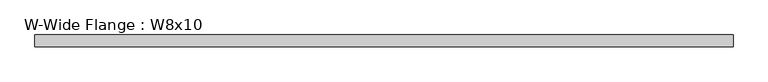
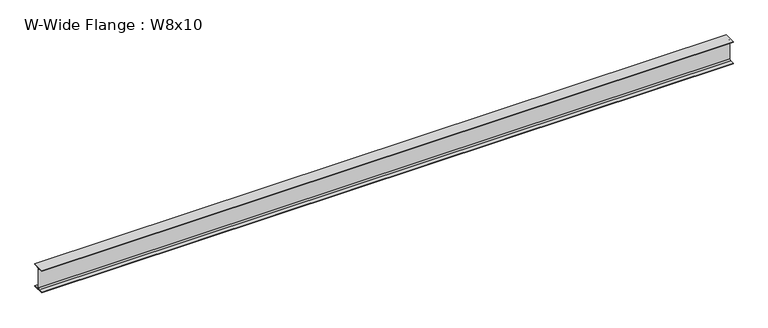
"""IFC4 building model written with IfcOpenShell, lengths in millimetres: beam geometry, W-Wide Flange : W8x10."""

from ifc_helpers import new_model, si_unit, point, frame, frame_2d, origin, place, context, project, spatial, polyline, circle_curve, trimmed, segment, composite_curve, outline, extrude, source, transform, mapped, element, save


def w_wide_flange_w8x10_49406460(model_context):
    return source(origin(), model_context, "Body", "SweptSolid", [
        extrude(outline(composite_curve([segment(polyline([(50.038, -94.996), (50.038, -100.203), (-50.038, -100.203), (-50.038, -94.996), (-14.4145, -94.996)]), True, "CONTINUOUS"), segment(trimmed(circle_curve(frame_2d((-14.4145, -82.7405)), 12.2555), [point((-14.4145, -94.996))], [point((-2.159, -82.7405))], True, "CARTESIAN"), True, "CONTINUOUS"), segment(polyline([(-2.159, -82.7405), (-2.159, 82.7405)]), True, "CONTINUOUS"), segment(trimmed(circle_curve(frame_2d((-14.4145, 82.7405)), 12.2555), [point((-2.159, 82.7405))], [point((-14.4145, 94.996))], True, "CARTESIAN"), True, "CONTINUOUS"), segment(polyline([(-14.4145, 94.996), (-50.038, 94.996), (-50.038, 100.203), (50.038, 100.203), (50.038, 94.996), (14.4145, 94.996)]), True, "CONTINUOUS"), segment(trimmed(circle_curve(frame_2d((14.4145, 82.7405)), 12.2555), [point((14.4145, 94.996))], [point((2.159, 82.7405))], True, "CARTESIAN"), True, "CONTINUOUS"), segment(polyline([(2.159, 82.7405), (2.159, -82.7405)]), True, "CONTINUOUS"), segment(trimmed(circle_curve(frame_2d((14.4145, -82.7405)), 12.2555), [point((2.159, -82.7405))], [point((14.4145, -94.996))], True, "CARTESIAN"), True, "CONTINUOUS"), segment(polyline([(14.4145, -94.996), (50.038, -94.996)]), True, "CONTINUOUS")], self_intersect=False)), frame((-2901.95, 0.0, 0.0), z_axis=(1.0, 0.0, 0.0), x_axis=(0.0, 1.0, 0.0)), (0.0, 0.0, 1.0), 5887.212),
    ])


if __name__ == "__main__":
    model = new_model("IFC4")
    model_context = context("Model", 3, world=origin())
    ifc_project = project(units=[si_unit("LENGTHUNIT", "METRE", prefix="MILLI")], contexts=[model_context])
    site = spatial("IfcSite", under=ifc_project)
    building = spatial("IfcBuilding", under=site)
    placement = place(None, origin())
    w_wide_flange_w8x10_shape = w_wide_flange_w8x10_49406460(model_context)
    element("IfcBeam", 1, ObjectType="W-Wide Flange : W8x10", at=placement, inside=building, context=model_context, shape_type="MappedRepresentation", body=[
        mapped(w_wide_flange_w8x10_shape, transform((0.0, 0.0, 0.0), x_axis=(1.0, 0.0, 0.0), y_axis=(0.0, 1.0, 0.0), z_axis=(0.0, 0.0, 1.0))),
    ])
    save(model, "model.ifc")
